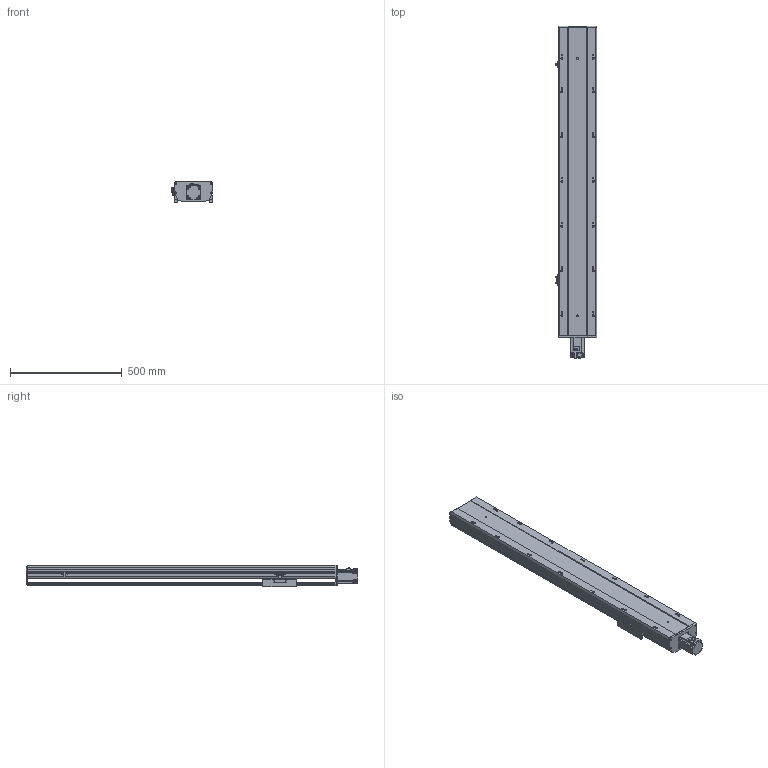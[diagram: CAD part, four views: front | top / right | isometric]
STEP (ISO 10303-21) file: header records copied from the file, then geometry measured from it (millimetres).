
FILE_DESCRIPTION (( 'STEP AP203' ), '1' );
FILE_NAME ('4.STEP', '2020-08-19T05:36:18', ( 'CXY' ), ( 'BOTI' ), 'SwSTEP 2.0', 'SolidWorks 2016', '' );
FILE_SCHEMA (( 'CONFIG_CONTROL_DESIGN' ));
Length unit declared in the file: millimetre
Products named in the file (15): BTH17M-BC-菁釱; BTH17M-BC-T40; BTH17M-BC-02; BTH17M-BC-HZ; BTH17M-BC-01; BTH17M-BC-04; 4
Assembly tree (8 placements, depth 2):
  BTH17M-BC-菁釱
  BTH17M-BC-02
  BTH17M-BC-HZ
  BTH17M-BC-04
  BTH17M-BC-T40
Bounding box: 183.7 x 1484.3 x 97 mm (x, y, z)
Volume: 9557849.4 mm3; surface area: 1552755.6 mm2
Topology: 10 solids, 10 shells, 971 faces, 2652 edges, 1748 vertices
Faces by surface type: plane 635, cylinder 308, cone 28
Full cylindrical faces by diameter (mm): 3.3 x4, 4.5 x14, 5 x10, 5.5 x12, 5.9 x8, 6 x7, 6.8 x14, 7.5 x8, 8 x6, 9 x14, 13.5 x14, 14 x1, 17 x1, 50 x1
Entity records: 24001 total; most frequent: CARTESIAN_POINT 4365, DIRECTION 3794, ORIENTED_EDGE 3632, EDGE_CURVE 1816, AXIS2_PLACEMENT_3D 1305, VERTEX_POINT 1268, VECTOR 1184, LINE 1184
